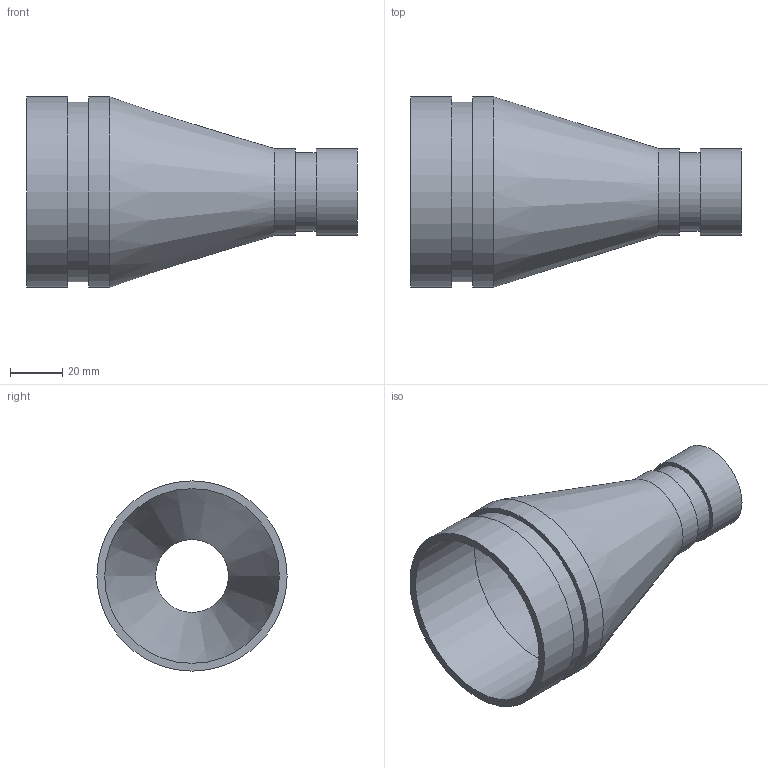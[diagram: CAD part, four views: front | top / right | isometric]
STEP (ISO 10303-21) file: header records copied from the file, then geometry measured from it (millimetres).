
FILE_DESCRIPTION(/* description */ ('VIC REDUCER CONCENTRIC No 450-SS','CAx-IF Rec.Pracs.---Representation and Presentation of Product Manufacturing Information (PMI)---4.0---2014-10-13'),/* implementation_level */ '2;1');
FILE_NAME(/* name */ 'C:\Users\kkamble\AppData\Roaming\Autodesk\ApplicationPlugins\Back Up\Victaulic_SS-OGS_Reducer Concentric_Sched 10S_No 450 SS (OGS)\Victaulic_SS-OGS_Reducer Concentric_Sched 10S_No 450 SS (OGS)_02.5x01.0 (65x25).stp',/* time_stamp */ '2020-09-08T12:32:14+05:00',/* author */ ('CORINNE GRAY'),/* organization */ ('Victaulic'),/* preprocessor_version */ 'ST-DEVELOPER v17.2',/* originating_system */ 'Autodesk Inventor 2019',/* authorisation */ '');
FILE_SCHEMA (('AP242_MANAGED_MODEL_BASED_3D_ENGINEERING_MIM_LF { 1 0 10303 442 1 1 4 }'));
Length unit declared in the file: inch
Products named in the file (1): 450 SS-02.5x01.0
Bounding box: 127 x 73.03 x 73.03 mm (x, y, z)
Volume: 53322.6 mm3; surface area: 43071.5 mm2
Topology: 1 solids, 1 shells, 16 faces, 42 edges, 32 vertices
Faces by surface type: cylinder 8, plane 6, cone 2
Full cylindrical faces by diameter (mm): 27.94 x1, 30.226 x1, 33.401 x2, 67.056 x1, 69.088 x1, 73.025 x2
Entity records: 686 total; most frequent: DIRECTION 134, CARTESIAN_POINT 108, ORIENTED_EDGE 84, AXIS2_PLACEMENT_3D 62, EDGE_CURVE 42, CIRCLE 32, VERTEX_POINT 32, EDGE_LOOP 22
